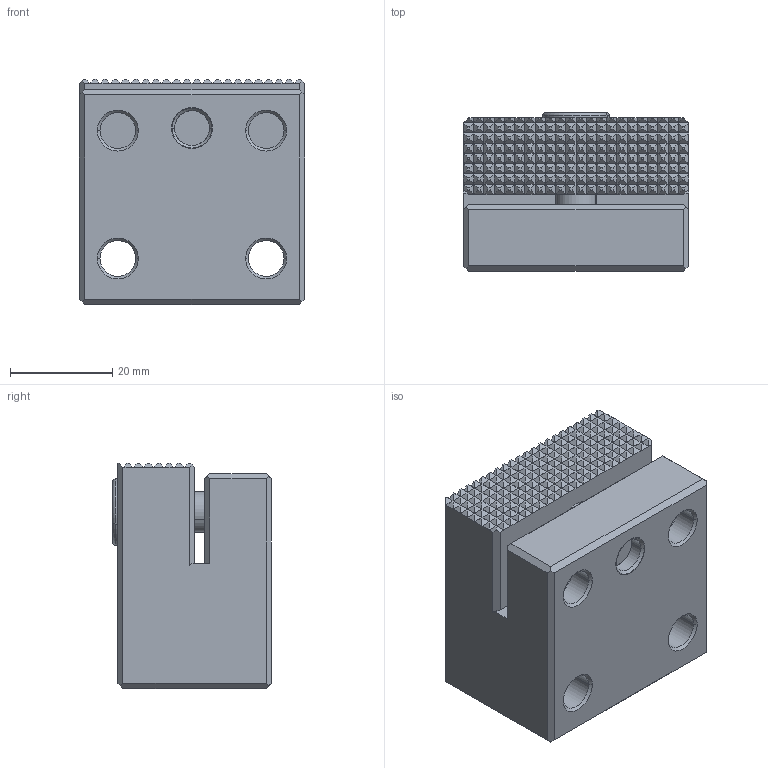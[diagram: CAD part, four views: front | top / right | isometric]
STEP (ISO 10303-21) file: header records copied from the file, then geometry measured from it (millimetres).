
FILE_DESCRIPTION((''),'2;1');
FILE_NAME('FG_WH_WEDCL_0OSJ2NP001','2026-06-12T11:38:42',('Admin'),(''),'CREO PARAMETRIC BY PTC INC, 2025010','CREO PARAMETRIC BY PTC INC, 2025010','');
FILE_SCHEMA(('CONFIG_CONTROL_DESIGN'));
Length unit declared in the file: metre
Products named in the file (1): FG_WH_WEDCL_0OSJ2NP001
Bounding box: 44 x 31 x 44 mm (x, y, z)
Volume: 48912.4 mm3; surface area: 14291.6 mm2
Topology: 1 solids, 3 shells, 958 faces, 2045 edges, 1099 vertices
Faces by surface type: plane 906, cylinder 30, cone 20, torus 2
Entity records: 24414 total; most frequent: CARTESIAN_POINT 4135, ORIENTED_EDGE 4082, DIRECTION 4081, EDGE_CURVE 2045, VECTOR 1923, LINE 1923, VERTEX_POINT 1099, AXIS2_PLACEMENT_3D 1079
